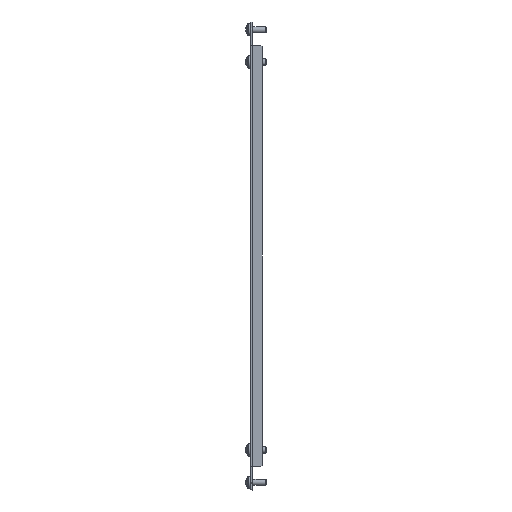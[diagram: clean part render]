
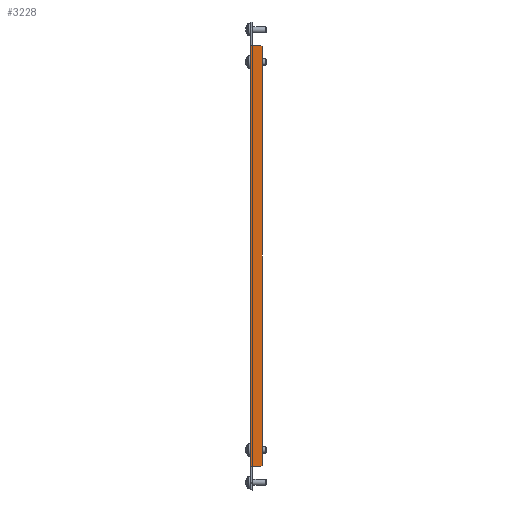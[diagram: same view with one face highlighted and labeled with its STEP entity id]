
A CAD part, left-side view. The second image highlights one B-rep face of the part: STEP entity #3228.
In plain terms, the highlighted planar face has unit normal (-1, 0, 0) as drawn and (1, 0, 0) by its records, which use the part's own axes.
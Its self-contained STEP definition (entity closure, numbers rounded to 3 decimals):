
#5 = ORIENTED_EDGE ( 'NONE', *, *, #2079, .T. ) ;
#153 = PLANE ( 'NONE',  #3260 ) ;
#165 = VECTOR ( 'NONE', #381, 1000. ) ;
#233 = VERTEX_POINT ( 'NONE', #1874 ) ;
#252 = CARTESIAN_POINT ( 'NONE',  ( 534., 163., -2.1 ) ) ;
#306 = EDGE_LOOP ( 'NONE', ( #1255, #5, #559, #2834, #1799, #2893, #2398, #641 ) ) ;
#370 = VERTEX_POINT ( 'NONE', #2929 ) ;
#381 = DIRECTION ( 'NONE',  ( 0., 0., -1. ) ) ;
#420 = VECTOR ( 'NONE', #1534, 1000. ) ;
#483 = CARTESIAN_POINT ( 'NONE',  ( 534., 163., 0. ) ) ;
#489 = CARTESIAN_POINT ( 'NONE',  ( 534., 163., -8. ) ) ;
#559 = ORIENTED_EDGE ( 'NONE', *, *, #2620, .T. ) ;
#641 = ORIENTED_EDGE ( 'NONE', *, *, #2577, .T. ) ;
#757 = VECTOR ( 'NONE', #1752, 1000. ) ;
#890 = LINE ( 'NONE', #1198, #2239 ) ;
#906 = VECTOR ( 'NONE', #2055, 1000. ) ;
#920 = DIRECTION ( 'NONE',  ( 0., 0., 1. ) ) ;
#965 = VECTOR ( 'NONE', #1468, 1000. ) ;
#1023 = DIRECTION ( 'NONE',  ( 0., 0., 1. ) ) ;
#1117 = CARTESIAN_POINT ( 'NONE',  ( 534., -163., -8. ) ) ;
#1126 = EDGE_CURVE ( 'NONE', #2644, #1818, #3160, .T. ) ;
#1128 = VECTOR ( 'NONE', #3220, 1000. ) ;
#1198 = CARTESIAN_POINT ( 'NONE',  ( 534., -163., 0. ) ) ;
#1255 = ORIENTED_EDGE ( 'NONE', *, *, #1126, .T. ) ;
#1259 = CARTESIAN_POINT ( 'NONE',  ( 534., -162., -9. ) ) ;
#1351 = EDGE_CURVE ( 'NONE', #370, #1560, #2545, .T. ) ;
#1468 = DIRECTION ( 'NONE',  ( 0., 0.707, -0.707 ) ) ;
#1474 = LINE ( 'NONE', #489, #906 ) ;
#1534 = DIRECTION ( 'NONE',  ( 0., -1., 0. ) ) ;
#1560 = VERTEX_POINT ( 'NONE', #3183 ) ;
#1658 = DIRECTION ( 'NONE',  ( 0., 1., 0. ) ) ;
#1752 = DIRECTION ( 'NONE',  ( 0., 0., 1. ) ) ;
#1799 = ORIENTED_EDGE ( 'NONE', *, *, #1351, .T. ) ;
#1815 = CARTESIAN_POINT ( 'NONE',  ( 534., -163., -2.1 ) ) ;
#1818 = VERTEX_POINT ( 'NONE', #1857 ) ;
#1857 = CARTESIAN_POINT ( 'NONE',  ( 534., 162., -9. ) ) ;
#1874 = CARTESIAN_POINT ( 'NONE',  ( 534., 163., -8. ) ) ;
#1898 = CARTESIAN_POINT ( 'NONE',  ( 534., 0., -9. ) ) ;
#1925 = LINE ( 'NONE', #2141, #1128 ) ;
#2010 = LINE ( 'NONE', #1259, #965 ) ;
#2035 = EDGE_CURVE ( 'NONE', #2245, #1560, #890, .T. ) ;
#2047 = LINE ( 'NONE', #483, #757 ) ;
#2055 = DIRECTION ( 'NONE',  ( 0., 0.707, 0.707 ) ) ;
#2056 = FACE_OUTER_BOUND ( 'NONE', #306, .T. ) ;
#2079 = EDGE_CURVE ( 'NONE', #1818, #233, #1474, .T. ) ;
#2141 = CARTESIAN_POINT ( 'NONE',  ( 534., 163., -2.1 ) ) ;
#2145 = LINE ( 'NONE', #3161, #165 ) ;
#2231 = CARTESIAN_POINT ( 'NONE',  ( 534., -162., -9. ) ) ;
#2239 = VECTOR ( 'NONE', #920, 1000. ) ;
#2245 = VERTEX_POINT ( 'NONE', #1815 ) ;
#2287 = CARTESIAN_POINT ( 'NONE',  ( 534., 0., 0. ) ) ;
#2398 = ORIENTED_EDGE ( 'NONE', *, *, #2487, .T. ) ;
#2487 = EDGE_CURVE ( 'NONE', #2245, #3266, #2145, .T. ) ;
#2545 = LINE ( 'NONE', #3079, #420 ) ;
#2577 = EDGE_CURVE ( 'NONE', #3266, #2644, #2010, .T. ) ;
#2620 = EDGE_CURVE ( 'NONE', #233, #3219, #2047, .T. ) ;
#2644 = VERTEX_POINT ( 'NONE', #2231 ) ;
#2823 = VECTOR ( 'NONE', #1658, 1000. ) ;
#2834 = ORIENTED_EDGE ( 'NONE', *, *, #2847, .T. ) ;
#2847 = EDGE_CURVE ( 'NONE', #3219, #370, #1925, .T. ) ;
#2893 = ORIENTED_EDGE ( 'NONE', *, *, #2035, .F. ) ;
#2929 = CARTESIAN_POINT ( 'NONE',  ( 534., 163., 0. ) ) ;
#3069 = DIRECTION ( 'NONE',  ( -1., 0., 0. ) ) ;
#3079 = CARTESIAN_POINT ( 'NONE',  ( 534., 0., 0. ) ) ;
#3160 = LINE ( 'NONE', #1898, #2823 ) ;
#3161 = CARTESIAN_POINT ( 'NONE',  ( 534., -163., 0. ) ) ;
#3183 = CARTESIAN_POINT ( 'NONE',  ( 534., -163., 0. ) ) ;
#3219 = VERTEX_POINT ( 'NONE', #252 ) ;
#3220 = DIRECTION ( 'NONE',  ( 0., 0., 1. ) ) ;
#3228 = ADVANCED_FACE ( 'NONE', ( #2056 ), #153, .F. ) ;
#3260 = AXIS2_PLACEMENT_3D ( 'NONE', #2287, #3069, #1023 ) ;
#3266 = VERTEX_POINT ( 'NONE', #1117 ) ;
